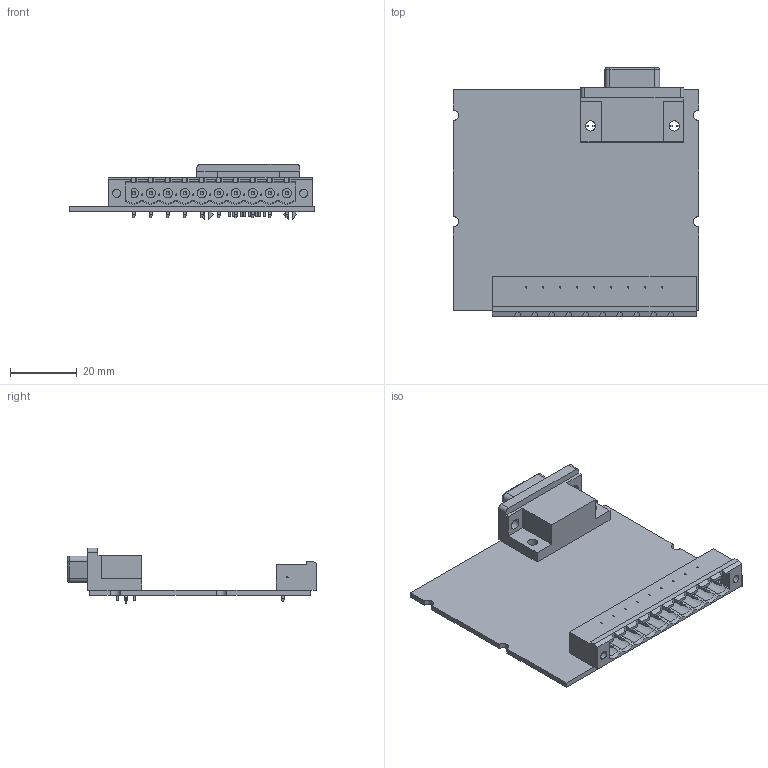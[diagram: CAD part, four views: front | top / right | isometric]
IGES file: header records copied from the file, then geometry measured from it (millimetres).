
Start section:  PTC IGES file: cu_10pos_screw_term_0leds.igs
Global section: file name: cu_10pos_screw_term_0leds.igs; native system: Creo Parametric by Parametric Technology Corporation; preprocessor: 2015280; author: dkendric; organization: Unknown; date: 20151217.122246; units: inch
Bounding box: 73.38 x 74.32 x 16.61 mm (x, y, z)
Surface area: 15202.3 mm2 (no closed solid volume)
Topology: 0 solids, 0 shells, 775 faces, 3644 edges, 3644 vertices
Faces by surface type: bspline 579, revolution 196
